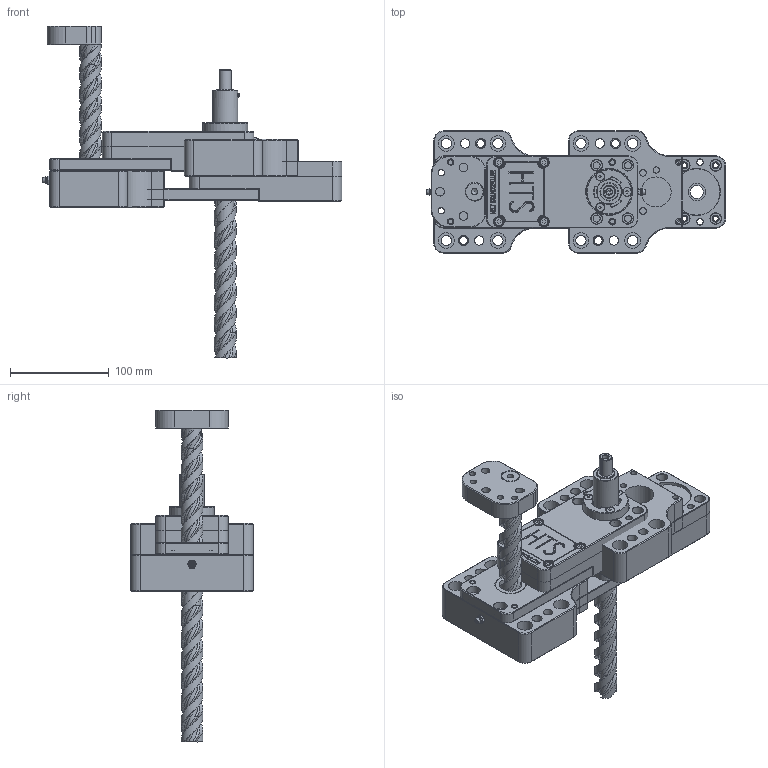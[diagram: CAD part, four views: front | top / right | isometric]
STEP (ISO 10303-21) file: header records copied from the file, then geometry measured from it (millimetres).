
FILE_DESCRIPTION( ( 'Unknown' ), '1' );
FILE_NAME( 'J:/1 Customer Files/HTS/HTS3000 SERIES/simplified_reps/3100-000/3000-000-4instrk.stp', 'Unknown', ( 'Unknown' ), ( 'Unknown' ), 'PSStep 14.0', 'Unknown', ' ' );
FILE_SCHEMA( ( 'AUTOMOTIVE_DESIGN { 1 0 10303 214 1 1 1 1 }' ) );
Length unit declared in the file: millimetre
Products named in the file (21): Assem1; 3008-000_0; 3017-000_0; 3006A-000; 3007A-000; 3016-000; 3025-000_0; 3034-000; 3018-000; 3007B-000; 3021-000; 3035-000; 3012-000_0; 3019-000; 3028-000; 3036-000; 3006B-000; 3022-440_0; 3020-040; 3023-194; 3011-004
Bounding box: 303.45 x 123.83 x 336.55 mm (x, y, z)
Volume: 2003893.6 mm3; surface area: 474664.1 mm2
Topology: 49 solids, 49 shells, 1976 faces, 5019 edges, 3259 vertices
Faces by surface type: plane 800, cylinder 583, cone 281, bspline 244, torus 60, sphere 8
Full cylindrical faces by diameter (mm): 1.587 x6, 2.381 x8, 2.769 x2, 3.307 x8, 3.454 x2, 3.493 x5, 3.551 x12, 3.797 x8, 4.166 x14, 4.216 x8, 4.709 x5, 4.915 x6, 4.928 x2, 5.156 x8, 5.41 x4, 5.766 x5, 6.35 x71, 6.528 x14, 7.144 x8, 7.805 x4, 7.938 x8, 8.712 x16, 8.731 x6, 8.738 x4, 8.763 x2, 9.058 x2, 9.525 x9, 10.16 x8, 10.319 x12, 11.113 x8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
Entity records: 54932 total; most frequent: CARTESIAN_POINT 27304, ORIENTED_EDGE 3934, DIRECTION 3893, EDGE_CURVE 1967, AXIS2_PLACEMENT_3D 1494, VERTEX_POINT 1412, EDGE_LOOP 1376, FACE_OUTER_BOUND 1089
